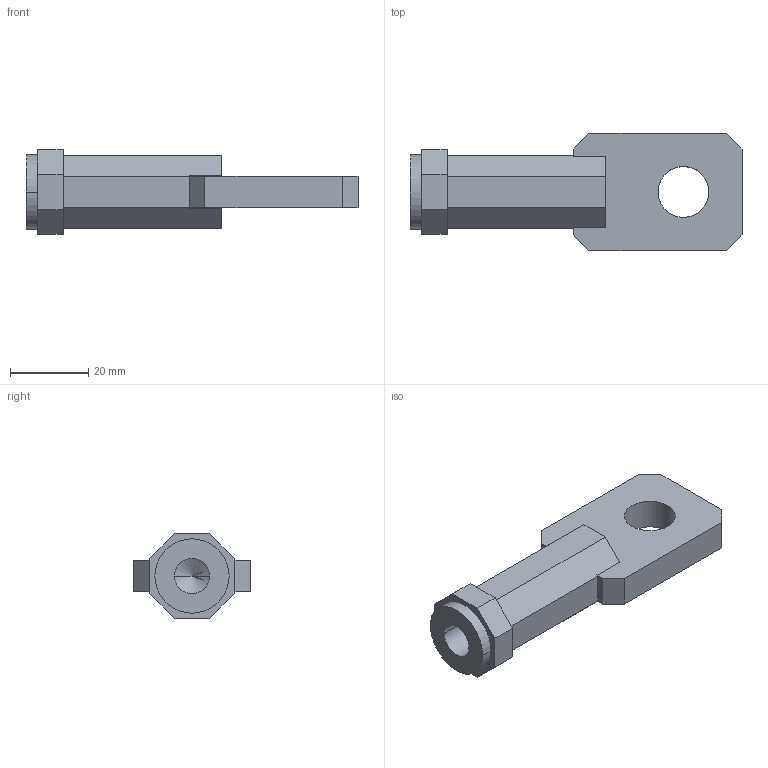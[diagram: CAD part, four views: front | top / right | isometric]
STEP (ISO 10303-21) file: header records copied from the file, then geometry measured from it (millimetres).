
FILE_DESCRIPTION((''),'2;1');
FILE_NAME('U6_SHORT_REAR_CONDUCTOR_ASSY_ASM','2018-06-04T',('HHI'),(''),'PRO/ENGINEER BY PARAMETRIC TECHNOLOGY CORPORATION, 2012453','PRO/ENGINEER BY PARAMETRIC TECHNOLOGY CORPORATION, 2012453','');
FILE_SCHEMA(('CONFIG_CONTROL_DESIGN'));
Length unit declared in the file: millimetre
Products named in the file (3): U6_SHORT_REAR_CONDUCTOR_AF0; U6_REAR_BUSBAR; U6_SHORT_REAR_CONDUCTOR_ASSY_ASM
Assembly tree (2 placements, depth 2):
  U6_SHORT_REAR_CONDUCTOR_ASSY_ASM
    U6_SHORT_REAR_CONDUCTOR_AF0
    U6_REAR_BUSBAR
Bounding box: 85 x 30 x 21.7 mm (x, y, z)
Volume: 21263.3 mm3; surface area: 8511.7 mm2
Topology: 2 solids, 2 shells, 78 faces, 202 edges, 133 vertices
Faces by surface type: plane 70, cylinder 6, cone 2
Entity records: 2420 total; most frequent: CARTESIAN_POINT 416, ORIENTED_EDGE 400, DIRECTION 378, EDGE_CURVE 200, VECTOR 188, LINE 188, VERTEX_POINT 133, AXIS2_PLACEMENT_3D 95
